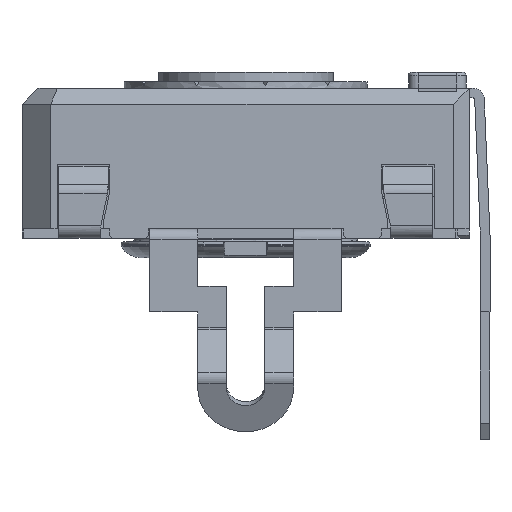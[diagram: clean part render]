
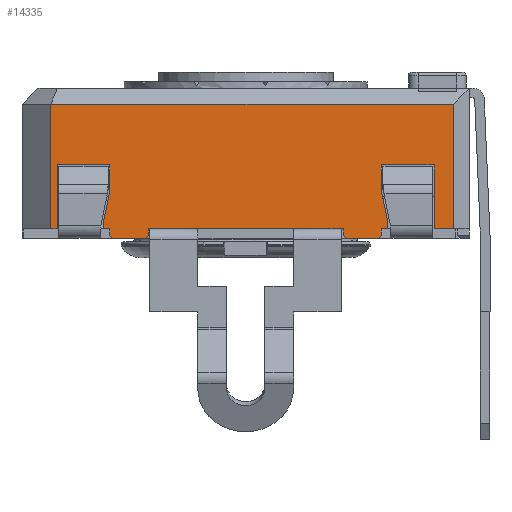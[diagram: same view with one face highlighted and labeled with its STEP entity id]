
A CAD part, left-side view. The second image highlights one B-rep face of the part: STEP entity #14335.
In plain terms, the highlighted planar face has unit normal (-1, 0, 0).
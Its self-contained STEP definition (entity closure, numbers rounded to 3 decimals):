
#1148=FACE_OUTER_BOUND('',#1889,.T.);
#1889=EDGE_LOOP('',(#11536,#11537,#11538,#11539,#11540,#11541,#11542,#11543,
#11544,#11545,#11546,#11547,#11548,#11549,#11550,#11551,#11552,#11553,#11554,
#11555,#11556,#11557,#11558,#11559,#11560,#11561,#11562,#11563));
#2465=LINE('',#20392,#4099);
#2470=LINE('',#20402,#4104);
#2475=LINE('',#20412,#4109);
#2586=LINE('',#20660,#4220);
#3093=LINE('',#22221,#4727);
#3098=LINE('',#22230,#4732);
#3101=LINE('',#22236,#4735);
#3105=LINE('',#22243,#4739);
#3129=LINE('',#22291,#4763);
#3132=LINE('',#22297,#4766);
#3137=LINE('',#22307,#4771);
#3140=LINE('',#22313,#4774);
#3143=LINE('',#22319,#4777);
#3158=LINE('',#22346,#4792);
#3170=LINE('',#22368,#4804);
#3172=LINE('',#22373,#4806);
#3207=LINE('',#22501,#4841);
#3210=LINE('',#22507,#4844);
#3215=LINE('',#22517,#4849);
#3217=LINE('',#22520,#4851);
#3324=LINE('',#22799,#4958);
#3326=LINE('',#22804,#4960);
#3329=LINE('',#22808,#4963);
#3331=LINE('',#22812,#4965);
#3334=LINE('',#22820,#4968);
#3335=LINE('',#22822,#4969);
#3336=LINE('',#22823,#4970);
#3337=LINE('',#22824,#4971);
#4099=VECTOR('',#16365,10.);
#4104=VECTOR('',#16370,10.);
#4109=VECTOR('',#16375,10.);
#4220=VECTOR('',#16586,10.);
#4727=VECTOR('',#17823,10.);
#4732=VECTOR('',#17830,10.);
#4735=VECTOR('',#17835,10.);
#4739=VECTOR('',#17841,10.);
#4763=VECTOR('',#17885,10.);
#4766=VECTOR('',#17890,10.);
#4771=VECTOR('',#17897,10.);
#4774=VECTOR('',#17902,10.);
#4777=VECTOR('',#17907,10.);
#4792=VECTOR('',#17924,10.);
#4804=VECTOR('',#17938,10.);
#4806=VECTOR('',#17942,10.);
#4841=VECTOR('',#18021,10.);
#4844=VECTOR('',#18026,10.);
#4849=VECTOR('',#18033,10.);
#4851=VECTOR('',#18037,10.);
#4958=VECTOR('',#18296,10.);
#4960=VECTOR('',#18300,10.);
#4963=VECTOR('',#18305,10.);
#4965=VECTOR('',#18311,10.);
#4968=VECTOR('',#18322,10.);
#4969=VECTOR('',#18323,10.);
#4970=VECTOR('',#18324,10.);
#4971=VECTOR('',#18325,10.);
#5704=VERTEX_POINT('',#20389);
#5705=VERTEX_POINT('',#20391);
#5709=VERTEX_POINT('',#20399);
#5710=VERTEX_POINT('',#20401);
#5714=VERTEX_POINT('',#20409);
#5715=VERTEX_POINT('',#20411);
#5801=VERTEX_POINT('',#20657);
#5802=VERTEX_POINT('',#20659);
#6238=VERTEX_POINT('',#22218);
#6239=VERTEX_POINT('',#22220);
#6243=VERTEX_POINT('',#22233);
#6246=VERTEX_POINT('',#22241);
#6259=VERTEX_POINT('',#22288);
#6261=VERTEX_POINT('',#22294);
#6265=VERTEX_POINT('',#22304);
#6267=VERTEX_POINT('',#22310);
#6270=VERTEX_POINT('',#22317);
#6281=VERTEX_POINT('',#22344);
#6290=VERTEX_POINT('',#22366);
#6292=VERTEX_POINT('',#22371);
#6316=VERTEX_POINT('',#22504);
#6320=VERTEX_POINT('',#22514);
#6387=VERTEX_POINT('',#22796);
#6388=VERTEX_POINT('',#22798);
#6389=VERTEX_POINT('',#22802);
#6390=VERTEX_POINT('',#22803);
#6391=VERTEX_POINT('',#22819);
#6392=VERTEX_POINT('',#22821);
#7141=EDGE_CURVE('',#5705,#5704,#2465,.T.);
#7146=EDGE_CURVE('',#5710,#5709,#2470,.T.);
#7151=EDGE_CURVE('',#5715,#5714,#2475,.T.);
#7277=EDGE_CURVE('',#5802,#5801,#2586,.T.);
#7956=EDGE_CURVE('',#6239,#6238,#3093,.T.);
#7961=EDGE_CURVE('',#6238,#5715,#3098,.T.);
#7964=EDGE_CURVE('',#5714,#6243,#3101,.T.);
#7968=EDGE_CURVE('',#6246,#6243,#3105,.T.);
#7993=EDGE_CURVE('',#5704,#6259,#3129,.T.);
#7996=EDGE_CURVE('',#6259,#6261,#3132,.T.);
#8001=EDGE_CURVE('',#6261,#6265,#3137,.T.);
#8004=EDGE_CURVE('',#6265,#6267,#3140,.T.);
#8007=EDGE_CURVE('',#6267,#6270,#3143,.T.);
#8022=EDGE_CURVE('',#6270,#6281,#3158,.T.);
#8034=EDGE_CURVE('',#6290,#6281,#3170,.T.);
#8036=EDGE_CURVE('',#6292,#6290,#3172,.T.);
#8083=EDGE_CURVE('',#5802,#6292,#3207,.T.);
#8086=EDGE_CURVE('',#5801,#6316,#3210,.T.);
#8091=EDGE_CURVE('',#6316,#6320,#3215,.T.);
#8093=EDGE_CURVE('',#6320,#6239,#3217,.T.);
#8216=EDGE_CURVE('',#6387,#6388,#3324,.T.);
#8218=EDGE_CURVE('',#6389,#6390,#3326,.T.);
#8221=EDGE_CURVE('',#5705,#6387,#3329,.T.);
#8223=EDGE_CURVE('',#5709,#6390,#3331,.T.);
#8226=EDGE_CURVE('',#6246,#6391,#3334,.T.);
#8227=EDGE_CURVE('',#6392,#6391,#3335,.T.);
#8228=EDGE_CURVE('',#5710,#6392,#3336,.T.);
#8229=EDGE_CURVE('',#6389,#6388,#3337,.T.);
#11536=ORIENTED_EDGE('',*,*,#7961,.T.);
#11537=ORIENTED_EDGE('',*,*,#7151,.T.);
#11538=ORIENTED_EDGE('',*,*,#7964,.T.);
#11539=ORIENTED_EDGE('',*,*,#7968,.F.);
#11540=ORIENTED_EDGE('',*,*,#8226,.T.);
#11541=ORIENTED_EDGE('',*,*,#8227,.F.);
#11542=ORIENTED_EDGE('',*,*,#8228,.F.);
#11543=ORIENTED_EDGE('',*,*,#7146,.T.);
#11544=ORIENTED_EDGE('',*,*,#8223,.T.);
#11545=ORIENTED_EDGE('',*,*,#8218,.F.);
#11546=ORIENTED_EDGE('',*,*,#8229,.T.);
#11547=ORIENTED_EDGE('',*,*,#8216,.F.);
#11548=ORIENTED_EDGE('',*,*,#8221,.F.);
#11549=ORIENTED_EDGE('',*,*,#7141,.T.);
#11550=ORIENTED_EDGE('',*,*,#7993,.T.);
#11551=ORIENTED_EDGE('',*,*,#7996,.T.);
#11552=ORIENTED_EDGE('',*,*,#8001,.T.);
#11553=ORIENTED_EDGE('',*,*,#8004,.T.);
#11554=ORIENTED_EDGE('',*,*,#8007,.T.);
#11555=ORIENTED_EDGE('',*,*,#8022,.T.);
#11556=ORIENTED_EDGE('',*,*,#8034,.F.);
#11557=ORIENTED_EDGE('',*,*,#8036,.F.);
#11558=ORIENTED_EDGE('',*,*,#8083,.F.);
#11559=ORIENTED_EDGE('',*,*,#7277,.T.);
#11560=ORIENTED_EDGE('',*,*,#8086,.T.);
#11561=ORIENTED_EDGE('',*,*,#8091,.T.);
#11562=ORIENTED_EDGE('',*,*,#8093,.T.);
#11563=ORIENTED_EDGE('',*,*,#7956,.T.);
#13394=PLANE('',#15321);
#14335=ADVANCED_FACE('',(#1148),#13394,.T.);
#15321=AXIS2_PLACEMENT_3D('',#22818,#18320,#18321);
#16365=DIRECTION('',(0.,-1.,0.));
#16370=DIRECTION('',(0.,-1.,0.));
#16375=DIRECTION('',(0.,-1.,0.));
#16586=DIRECTION('',(0.,-1.,0.));
#17823=DIRECTION('',(0.,0.208,-0.978));
#17830=DIRECTION('',(0.,0.,-1.));
#17835=DIRECTION('',(0.,0.,-1.));
#17841=DIRECTION('',(0.,0.707,0.707));
#17885=DIRECTION('',(0.,0.,1.));
#17890=DIRECTION('',(0.,0.208,0.978));
#17897=DIRECTION('',(0.,0.,1.));
#17902=DIRECTION('',(0.,-1.,0.));
#17907=DIRECTION('',(0.,0.,-1.));
#17924=DIRECTION('',(0.,-1.,0.));
#17938=DIRECTION('',(0.,0.,-1.));
#17942=DIRECTION('',(0.,-1.,0.));
#18021=DIRECTION('',(0.,0.,1.));
#18026=DIRECTION('',(0.,0.,1.));
#18033=DIRECTION('',(0.,-1.,0.));
#18037=DIRECTION('',(0.,0.,-1.));
#18296=DIRECTION('',(0.,0.707,-0.707));
#18300=DIRECTION('',(0.,0.707,0.707));
#18305=DIRECTION('',(0.,0.,-1.));
#18311=DIRECTION('',(0.,0.,-1.));
#18320=DIRECTION('center_axis',(-1.,0.,0.));
#18321=DIRECTION('ref_axis',(0.,0.,1.));
#18322=DIRECTION('',(0.,-1.,0.));
#18323=DIRECTION('',(0.,0.707,-0.707));
#18324=DIRECTION('',(0.,0.,-1.));
#18325=DIRECTION('',(0.,-1.,0.));
#20389=CARTESIAN_POINT('',(-14.467,-7.348,0.));
#20391=CARTESIAN_POINT('',(-14.467,-7.148,0.));
#20392=CARTESIAN_POINT('',(-14.467,4.102,0.));
#20399=CARTESIAN_POINT('',(-14.467,-5.948,0.));
#20401=CARTESIAN_POINT('',(-14.467,0.152,0.));
#20402=CARTESIAN_POINT('',(-14.467,4.102,0.));
#20409=CARTESIAN_POINT('',(-14.467,1.352,0.));
#20411=CARTESIAN_POINT('',(-14.467,1.552,0.));
#20412=CARTESIAN_POINT('',(-14.467,4.102,0.));
#20657=CARTESIAN_POINT('',(-14.467,3.002,0.));
#20659=CARTESIAN_POINT('',(-14.467,3.202,0.));
#20660=CARTESIAN_POINT('',(-14.467,-2.985,0.));
#22218=CARTESIAN_POINT('',(-14.467,1.552,0.235));
#22220=CARTESIAN_POINT('',(-14.467,1.352,1.176));
#22221=CARTESIAN_POINT('',(-14.467,1.228,1.757));
#22230=CARTESIAN_POINT('',(-14.467,1.552,0.));
#22233=CARTESIAN_POINT('',(-14.467,1.352,-0.2));
#22236=CARTESIAN_POINT('',(-14.467,1.352,0.));
#22241=CARTESIAN_POINT('',(-14.467,1.252,-0.3));
#22243=CARTESIAN_POINT('',(-14.467,-1.436,-2.988));
#22288=CARTESIAN_POINT('',(-14.467,-7.348,0.235));
#22291=CARTESIAN_POINT('',(-14.467,-7.348,0.118));
#22294=CARTESIAN_POINT('',(-14.467,-7.148,1.176));
#22297=CARTESIAN_POINT('',(-14.467,-7.453,-0.254));
#22304=CARTESIAN_POINT('',(-14.467,-7.148,2.));
#22307=CARTESIAN_POINT('',(-14.467,-7.148,0.588));
#22310=CARTESIAN_POINT('',(-14.467,-8.798,2.));
#22313=CARTESIAN_POINT('',(-14.467,-8.523,2.));
#22317=CARTESIAN_POINT('',(-14.467,-8.798,0.));
#22319=CARTESIAN_POINT('',(-14.467,-8.798,0.));
#22344=CARTESIAN_POINT('',(-14.467,-9.398,0.));
#22346=CARTESIAN_POINT('',(-14.467,-9.595,0.));
#22366=CARTESIAN_POINT('',(-14.467,-9.398,3.9));
#22368=CARTESIAN_POINT('',(-14.467,-9.398,0.));
#22371=CARTESIAN_POINT('',(-14.467,3.202,3.9));
#22373=CARTESIAN_POINT('',(-14.467,-6.398,3.9));
#22501=CARTESIAN_POINT('',(-14.467,3.202,0.));
#22504=CARTESIAN_POINT('',(-14.467,3.002,2.));
#22507=CARTESIAN_POINT('',(-14.467,3.002,0.));
#22514=CARTESIAN_POINT('',(-14.467,1.352,2.));
#22517=CARTESIAN_POINT('',(-14.467,-3.448,2.));
#22520=CARTESIAN_POINT('',(-14.467,1.352,1.));
#22796=CARTESIAN_POINT('',(-14.467,-7.148,-0.2));
#22798=CARTESIAN_POINT('',(-14.467,-7.048,-0.3));
#22799=CARTESIAN_POINT('',(-14.467,-7.861,0.513));
#22802=CARTESIAN_POINT('',(-14.467,-6.048,-0.3));
#22803=CARTESIAN_POINT('',(-14.467,-5.948,-0.2));
#22804=CARTESIAN_POINT('',(-14.467,-6.911,-1.163));
#22808=CARTESIAN_POINT('',(-14.467,-7.148,0.));
#22812=CARTESIAN_POINT('',(-14.467,-5.948,0.));
#22818=CARTESIAN_POINT('Origin',(-14.467,-9.898,0.));
#22819=CARTESIAN_POINT('',(-14.467,0.252,-0.3));
#22820=CARTESIAN_POINT('',(-14.467,0.152,-0.3));
#22821=CARTESIAN_POINT('',(-14.467,0.152,-0.2));
#22822=CARTESIAN_POINT('',(-14.467,-2.386,2.338));
#22823=CARTESIAN_POINT('',(-14.467,0.152,0.));
#22824=CARTESIAN_POINT('',(-14.467,-7.148,-0.3));
